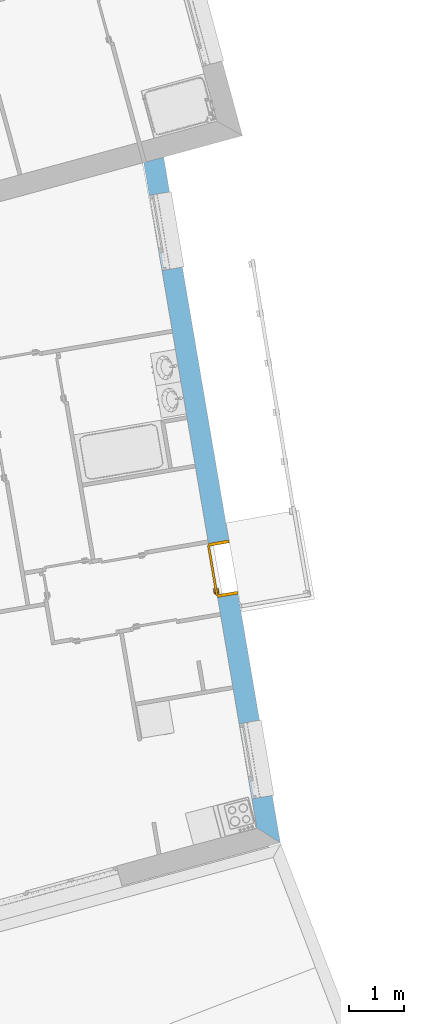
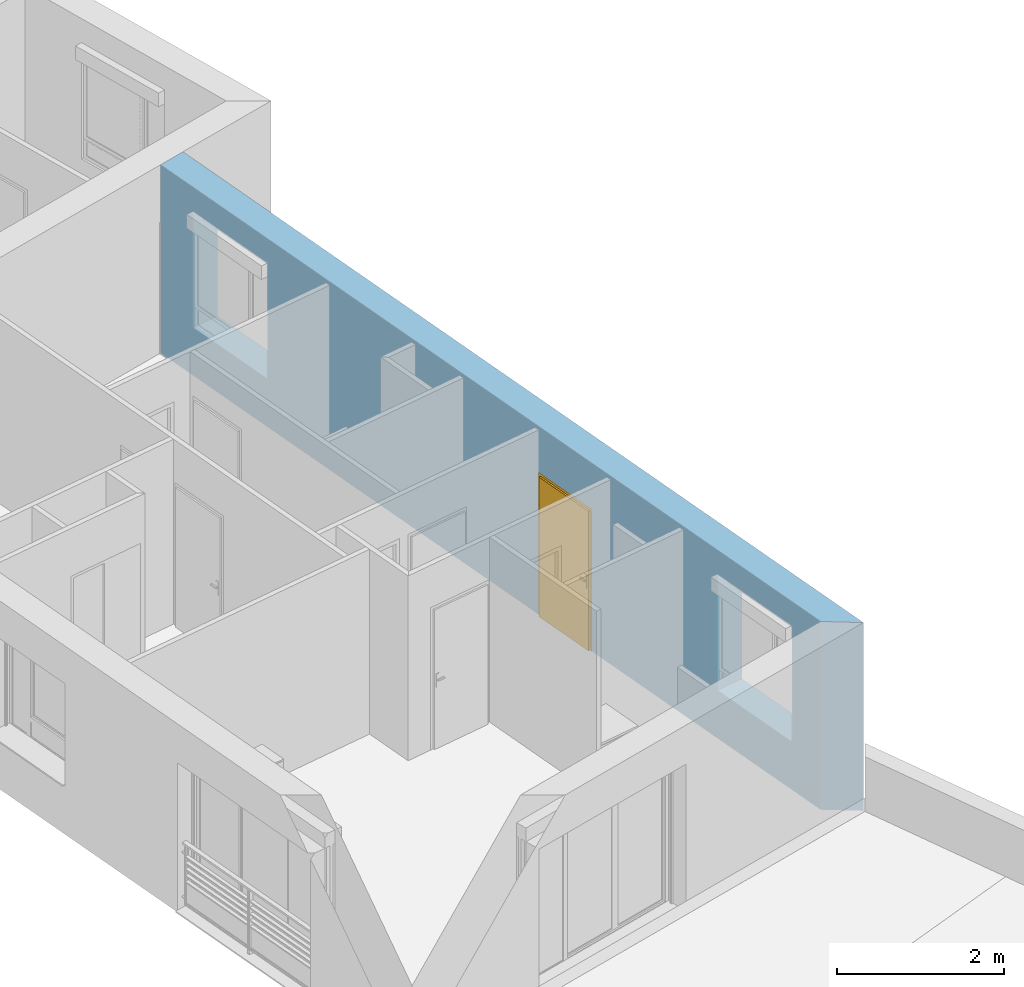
# One storey, part 78 of 121: 1 door, 3 openings, plus 1 element that does not belong to this part.
"""IFC2X3 building model written with IfcOpenShell, lengths in metres."""

from ifc_helpers import new_model, entity, si_unit, converted_unit, derived_unit, money_unit, direction, frame, origin_with_axes, origin_2d_with_axis, place, context, subcontext, project, spatial, polyline, rectangle, outline, extrude, faceted_brep, source, transform, mapped, material, layer, layer_set, layer_usage, type_object, element, fill, save


model = new_model("IFC2X3")

# Units and contexts
model_context = context("Model", 3, precision=1e-05, world=origin_with_axes(), true_north=direction((0.0, 1.0)))
body_context = subcontext(model_context, "Body", "Model", "MODEL_VIEW")
ifc_project = project(units=[si_unit("LENGTHUNIT", "METRE"), si_unit("AREAUNIT", "SQUARE_METRE"), si_unit("VOLUMEUNIT", "CUBIC_METRE"), converted_unit("PLANEANGLEUNIT", "DEGREE", entity("IfcPlaneAngleMeasure", 0.0174532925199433), si_unit("PLANEANGLEUNIT", "RADIAN"), dimensions=[0, 0, 0, 0, 0, 0, 0]), money_unit("CHF"), converted_unit("TIMEUNIT", "Year", entity("IfcTimeMeasure", 31557600.0), si_unit("TIMEUNIT", "SECOND"), dimensions=[0, 0, 1, 0, 0, 0, 0]), si_unit("MASSUNIT", "GRAM", prefix="KILO"), si_unit("THERMODYNAMICTEMPERATUREUNIT", "DEGREE_CELSIUS"), si_unit("LUMINOUSINTENSITYUNIT", "LUMEN"), si_unit("ENERGYUNIT", "JOULE", prefix="MEGA"), derived_unit("THERMALCONDUCTANCEUNIT", [(si_unit("POWERUNIT", "WATT"), 1), (si_unit("LENGTHUNIT", "METRE"), -1), (si_unit("THERMODYNAMICTEMPERATUREUNIT", "KELVIN"), -1)]), derived_unit("SPECIFICHEATCAPACITYUNIT", [(si_unit("ENERGYUNIT", "JOULE"), 1), (si_unit("MASSUNIT", "GRAM", prefix="KILO"), -1), (si_unit("THERMODYNAMICTEMPERATUREUNIT", "KELVIN"), -1)]), derived_unit("MASSDENSITYUNIT", [(si_unit("MASSUNIT", "GRAM", prefix="KILO"), 1), (si_unit("VOLUMEUNIT", "CUBIC_METRE"), -1)])], contexts=[model_context])

# Site, building, storey
site_placement = place(None, origin_with_axes())
site = spatial("IfcSite", under=ifc_project, at=site_placement, Name="Site", CompositionType="ELEMENT")
building_placement = place(site_placement, origin_with_axes())
building = spatial("IfcBuilding", under=site, at=building_placement, Name="Bâtiment", CompositionType="ELEMENT")
storey_placement = place(building_placement, frame((0.0, 0.0, 2.75), z_axis=(0.0, 0.0, 1.0), x_axis=(1.0, 0.0, 0.0)))
storey = spatial("IfcBuildingStorey", under=building, at=storey_placement, Name="Etage 1", CompositionType="ELEMENT", Elevation=2.75)

# Wall, openings, door
ifc_material_1 = material(Name="Parpaing 312445824")
ifc_layer_1 = layer(ifc_material_1, 0.22, ventilated="UNKNOWN")
ifc_material_2 = material(Name="Isolant styromousse 301821074")
ifc_layer_2 = layer(ifc_material_2, 0.16, ventilated="UNKNOWN")
ifc_layer_set = layer_set([ifc_layer_1, ifc_layer_2], Name="isol int 22+16 0836643197")
ifc_layer_usage = layer_usage(ifc_layer_set, "AXIS2", "NEGATIVE", 0.0)
wall_type = type_object("IfcWallType", Name="isol int 22+16 0836643197 380", PredefinedType="NOTDEFINED")
wall_placement = place(storey_placement, frame((9587.267838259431, -1021.018009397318, 57.7), z_axis=(0.0, 0.0, 1.0), x_axis=(0.1677527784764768, -0.9858290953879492, 0.0)))
wall = element("IfcWallStandardCase", 1, at=wall_placement, inside=storey, type_object=wall_type, material=ifc_layer_usage, Name="Mur-113", context=body_context, shape_type="SweptSolid", body=[
    extrude(outline(polyline([(0.03709306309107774, -0.3799999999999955), (12.41463836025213, -0.3799999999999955), (12.75935139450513, 0.0), (9.105178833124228e-10, 0.0), (0.03709306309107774, -0.3799999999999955)])), origin_with_axes(), (0.0, 0.0, 1.0), 2.75),
])
opening_1_placement = place(wall_placement, frame((1.346555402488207, 0.0, 0.7000000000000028), z_axis=(0.0, 0.0, 1.0), x_axis=(1.0, 0.0, 0.0)))
element("IfcOpeningElement", 2, at=opening_1_placement, cuts=wall, Name="Fen-045", context=body_context, shape_type="Brep", body=[
    faceted_brep([(-0.700000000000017, -0.2200000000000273, 1.5), (0.700000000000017, -0.2199999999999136, 1.5), (0.700000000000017, 2.111085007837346, 1.5), (-0.700000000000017, 2.111085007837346, 1.5), (-0.700000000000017, -0.2200000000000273, 1.700000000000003), (0.700000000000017, -0.2199999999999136, 1.700000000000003), (0.700000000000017, -0.2999999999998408, 1.5), (0.700000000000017, -0.2999999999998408, 0.0), (0.700000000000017, 2.111085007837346, 0.0), (-0.700000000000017, 2.111085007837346, 0.0), (-0.6999999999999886, -0.2999999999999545, 1.5), (-0.6999999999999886, -0.2999999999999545, 0.0), (-0.6999999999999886, -0.4799999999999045, 1.5), (-0.6999999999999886, -0.4799999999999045, 1.700000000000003), (0.700000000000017, -0.4799999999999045, 1.700000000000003), (0.700000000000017, -0.4799999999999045, 1.5), (0.700000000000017, -2.491085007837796, 1.5), (0.700000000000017, -2.491085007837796, 0.0), (-0.6999999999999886, -2.491085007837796, 0.0), (-0.6999999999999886, -2.491085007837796, 1.5)], [[[0, 1, 2, 3]], [[1, 0, 4, 5]], [[1, 6, 7, 8, 2]], [[2, 8, 9, 3]], [[10, 0, 3, 9, 11]], [[0, 10, 12, 13, 4]], [[14, 5, 4, 13]], [[6, 1, 5, 14, 15]], [[6, 15, 16, 17, 7]], [[7, 11, 9, 8]], [[12, 10, 11, 18, 19]], [[12, 15, 14, 13]], [[15, 12, 19, 16]], [[19, 18, 17, 16]], [[11, 7, 17, 18]]]),
])
opening_2_placement = place(wall_placement, frame((7.626217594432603, 0.0, 0.0), z_axis=(0.0, 0.0, 1.0), x_axis=(1.0, 0.0, 0.0)))
opening_2 = element("IfcOpeningElement", 3, at=opening_2_placement, cuts=wall, Name="Por-294", context=body_context, shape_type="SweptSolid", body=[
    extrude(rectangle(XDim=1.01000001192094, YDim=2.079999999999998, at=origin_2d_with_axis()), frame((-5.960401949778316e-09, 0.3799999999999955, 1.039999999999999), z_axis=(0.0, -1.0, 0.0), x_axis=(-1.0, 0.0, 0.0)), (0.0, 0.0, 1.0), 0.76),
])
opening_3_placement = place(wall_placement, frame((11.17804092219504, 0.0, 0.7000000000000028), z_axis=(0.0, 0.0, 1.0), x_axis=(1.0, 0.0, 0.0)))
element("IfcOpeningElement", 4, at=opening_3_placement, cuts=wall, Name="Fen-045", context=body_context, shape_type="Brep", body=[
    faceted_brep([(-0.6999999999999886, -0.2200000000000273, 1.5), (0.6999999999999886, -0.2200000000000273, 1.5), (0.6999999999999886, 2.111085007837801, 1.5), (-0.6999999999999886, 2.111085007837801, 1.5), (-0.6999999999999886, -0.2200000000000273, 1.700000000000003), (0.6999999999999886, -0.2200000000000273, 1.700000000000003), (0.6999999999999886, -0.2999999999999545, 1.5), (0.6999999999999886, -0.2999999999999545, 0.0), (0.6999999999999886, 2.111085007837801, 0.0), (-0.6999999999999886, 2.111085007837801, 0.0), (-0.6999999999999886, -0.2999999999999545, 1.5), (-0.6999999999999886, -0.2999999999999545, 0.0), (-0.6999999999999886, -0.4799999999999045, 1.5), (-0.6999999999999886, -0.4799999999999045, 1.700000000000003), (0.6999999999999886, -0.4800000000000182, 1.700000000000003), (0.6999999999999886, -0.4800000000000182, 1.5), (0.700000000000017, -2.491085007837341, 1.5), (0.700000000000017, -2.491085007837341, 0.0), (-0.700000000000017, -2.491085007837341, 0.0), (-0.700000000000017, -2.491085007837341, 1.5)], [[[0, 1, 2, 3]], [[1, 0, 4, 5]], [[1, 6, 7, 8, 2]], [[2, 8, 9, 3]], [[10, 0, 3, 9, 11]], [[0, 10, 12, 13, 4]], [[14, 5, 4, 13]], [[6, 1, 5, 14, 15]], [[6, 15, 16, 17, 7]], [[7, 11, 9, 8]], [[12, 10, 11, 18, 19]], [[12, 15, 14, 13]], [[15, 12, 19, 16]], [[19, 18, 17, 16]], [[11, 7, 17, 18]]]),
])
door_style = type_object("IfcDoorStyle", Name="Porte_1v", ConstructionType="NOTDEFINED", OperationType="NOTDEFINED", ParameterTakesPrecedence=False, Sizeable=False)
shared_shape = source(origin_with_axes(), body_context, "Body", "Brep", [
    faceted_brep([(0.5049999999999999, 0.0, 0.0), (0.465, 0.0, 0.0), (0.4649999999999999, 0.0, 2.04), (-0.4649999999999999, 0.0, 2.04), (-0.465, 0.0, 0.0), (-0.5049999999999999, 0.0, 0.0), (-0.5049999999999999, 0.0, 2.08), (0.5049999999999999, 0.0, 2.08), (0.5049999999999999, -0.38, 0.0), (0.45, -0.3799999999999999, 0.0), (0.45, -0.01500000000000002, 0.0), (0.465, -0.01500000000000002, 0.0), (0.4649999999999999, -0.01500000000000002, 2.04), (-0.4649999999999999, -0.01499999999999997, 2.04), (-0.465, -0.01499999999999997, 0.0), (-0.45, -0.01499999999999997, 0.0), (-0.45, -0.3799999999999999, 0.0), (-0.5049999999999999, -0.3799999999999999, 0.0), (-0.5049999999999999, -0.3799999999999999, 2.08), (0.5049999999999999, -0.38, 2.08), (-0.45, -0.3799999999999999, 2.025), (0.45, -0.3799999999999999, 2.025), (0.45, -0.01500000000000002, 2.025), (-0.45, -0.01499999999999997, 2.025)], [[[0, 1, 2, 3, 4, 5, 6, 7]], [[0, 8, 9, 10, 11, 1]], [[1, 11, 12, 2]], [[2, 12, 13, 3]], [[3, 13, 14, 4]], [[5, 4, 14, 15, 16, 17]], [[18, 6, 5, 17]], [[19, 7, 6, 18]], [[8, 0, 7, 19]], [[9, 8, 19, 18, 17, 16, 20, 21]], [[10, 9, 21, 22]], [[11, 10, 22, 23, 15, 14, 13, 12]], [[23, 20, 16, 15]], [[22, 21, 20, 23]]]),
    faceted_brep([(-0.4, -0.01499999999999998, 0.9), (-0.4399999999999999, -0.01499999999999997, 0.9), (-0.4399999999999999, -0.01499999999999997, 1.1), (-0.4, -0.01499999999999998, 1.1), (-0.4, -0.02499999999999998, 0.9), (-0.4399999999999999, -0.02499999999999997, 0.9), (-0.4399999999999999, -0.02499999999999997, 1.1), (-0.4, -0.02499999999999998, 1.1)], [[[0, 1, 2, 3]], [[1, 0, 4, 5]], [[2, 1, 5, 6]], [[3, 2, 6, 7]], [[0, 3, 7, 4]], [[5, 4, 7, 6]]]),
    faceted_brep([(-0.3299999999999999, -0.02499999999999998, 1.0), (-0.4299999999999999, -0.02499999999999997, 1.0), (-0.4299999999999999, -0.02499999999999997, 1.02), (-0.3299999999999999, -0.02499999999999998, 1.02), (-0.3299999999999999, -0.04499999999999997, 1.0), (-0.4299999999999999, -0.04499999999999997, 1.0), (-0.4299999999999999, -0.04499999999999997, 1.02), (-0.3299999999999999, -0.04499999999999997, 1.02)], [[[0, 1, 2, 3]], [[1, 0, 4, 5]], [[2, 1, 5, 6]], [[3, 2, 6, 7]], [[0, 3, 7, 4]], [[5, 4, 7, 6]]]),
    faceted_brep([(-0.4, 0.03500000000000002, 0.9), (-0.4399999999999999, 0.03500000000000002, 0.9), (-0.4399999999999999, 0.03500000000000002, 1.1), (-0.4, 0.03500000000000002, 1.1), (-0.4, 0.02500000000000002, 0.9), (-0.4399999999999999, 0.02500000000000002, 0.9), (-0.4399999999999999, 0.02500000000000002, 1.1), (-0.4, 0.02500000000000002, 1.1)], [[[0, 1, 2, 3]], [[1, 0, 4, 5]], [[2, 1, 5, 6]], [[3, 2, 6, 7]], [[0, 3, 7, 4]], [[5, 4, 7, 6]]]),
    faceted_brep([(-0.3299999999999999, 0.05500000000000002, 1.0), (-0.4299999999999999, 0.05500000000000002, 1.0), (-0.4299999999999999, 0.05500000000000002, 1.02), (-0.3299999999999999, 0.05500000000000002, 1.02), (-0.3299999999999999, 0.03500000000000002, 1.0), (-0.4299999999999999, 0.03500000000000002, 1.0), (-0.4299999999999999, 0.03500000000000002, 1.02), (-0.3299999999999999, 0.03500000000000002, 1.02)], [[[0, 1, 2, 3]], [[1, 0, 4, 5]], [[2, 1, 5, 6]], [[3, 2, 6, 7]], [[0, 3, 7, 4]], [[5, 4, 7, 6]]]),
    faceted_brep([(-0.465, 0.02500000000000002, 0.0), (0.465, 0.02499999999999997, 0.0), (0.465, -0.01500000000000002, 0.0), (-0.465, -0.01499999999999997, 0.0), (-0.465, 0.02500000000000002, 2.04), (0.465, 0.02499999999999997, 2.04), (0.465, -0.01500000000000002, 2.04), (-0.465, -0.01499999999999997, 2.04)], [[[0, 1, 2, 3]], [[0, 4, 5, 1]], [[1, 5, 6, 2]], [[3, 2, 6, 7]], [[4, 0, 3, 7]], [[5, 4, 7, 6]]]),
])
door_placement = place(opening_2_placement, frame((0.4649999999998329, 0.0, 0.0), z_axis=(0.0, 0.0, 1.0), x_axis=(-1.0, 0.0, 0.0)))
door = element("IfcDoor", 5, at=door_placement, inside=storey, type_object=door_style, Name="Por-294", OverallHeight=2.04, OverallWidth=0.93, context=body_context, shape_type="MappedRepresentation", body=[
    mapped(shared_shape, transform((0.4650000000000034, 0.3799999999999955, 0.0))),
])
fill(opening_2, door)

save(model, "model.ifc")
